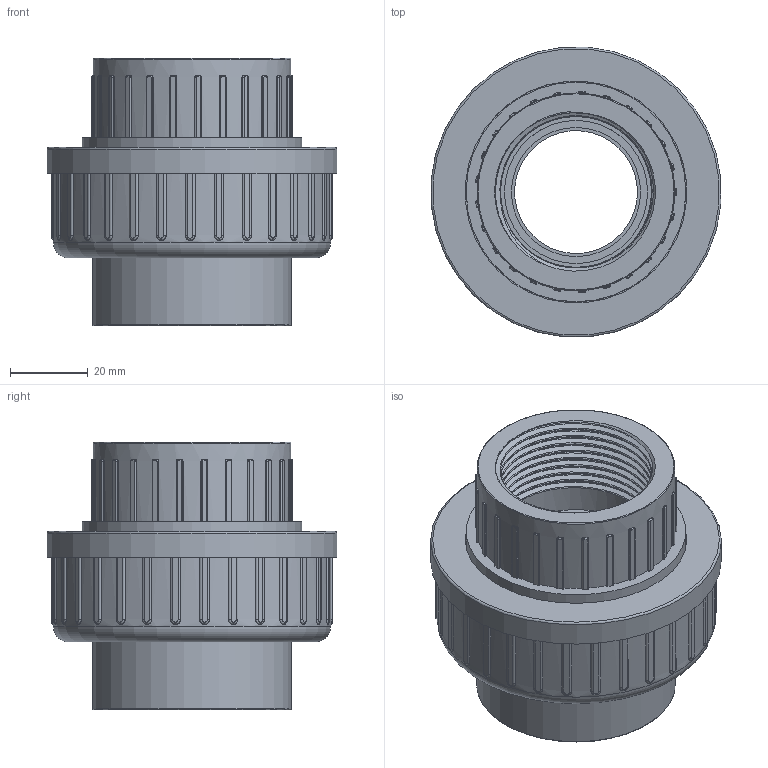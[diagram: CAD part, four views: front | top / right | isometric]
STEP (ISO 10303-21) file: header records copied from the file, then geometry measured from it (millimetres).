
FILE_DESCRIPTION(/* description */ (''),/* implementation_level */ '2;1');
FILE_NAME(/* name */ 'C:\Users\POLYPIPE\Desktop\DATASET INVENTOR\LIBRERIA EFFAST\3D_RACCORDI\RER\3D_RERBOE\3D_RERBOE040E.stp',/* time_stamp */ '2018-01-22T15:56:51+01:00',/* author */ ('POLYPIPE'),/* organization */ (''),/* preprocessor_version */ 'ST-DEVELOPER v16.1',/* originating_system */ 'Autodesk Inventor 2016',/* authorisation */ '');
FILE_SCHEMA (('CONFIG_CONTROL_DESIGN'));
Length unit declared in the file: centimetre
Products named in the file (1): 3D_RERBOE
Bounding box: 74.74 x 74.74 x 69 mm (x, y, z)
Volume: 117494.2 mm3; surface area: 42027 mm2
Topology: 1 solids, 1 shells, 469 faces, 1261 edges, 805 vertices
Faces by surface type: cylinder 198, plane 145, bspline 120, torus 4, cone 2
Full cylindrical faces by diameter (mm): 31.7 x1, 33.3 x1, 36.952 x1, 38.952 x2, 51 x1, 51.3 x1, 54.2 x1, 56.4 x1, 56.656 x1, 57.2 x1, 71.8 x1, 75 x1
Entity records: 23827 total; most frequent: CARTESIAN_POINT 12024, ORIENTED_EDGE 2478, DIRECTION 2259, EDGE_CURVE 1239, AXIS2_PLACEMENT_3D 864, VERTEX_POINT 801, LINE 531, VECTOR 531
